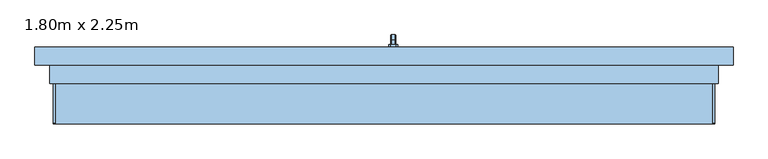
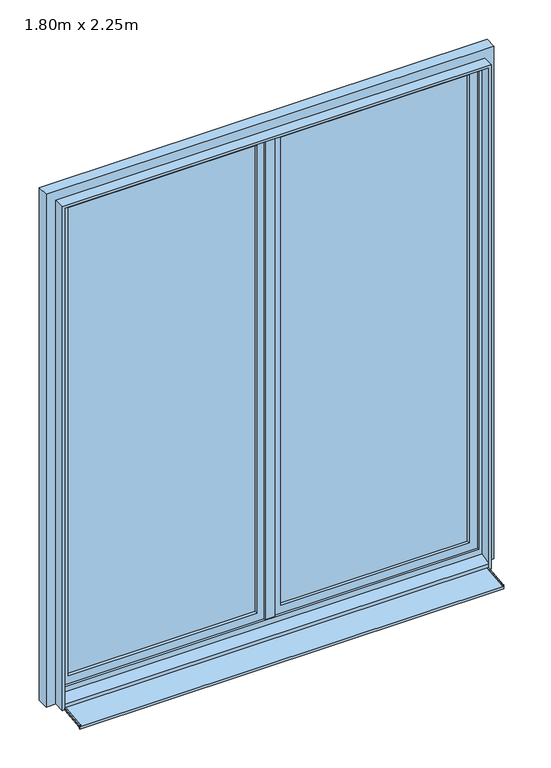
"""IFC4 building model written with IfcOpenShell, lengths in millimetres: window geometry, PF 2 Vantaux - Droits : 1.80m x 2.25m."""

from ifc_helpers import new_model, si_unit, point, frame, frame_2d, origin, place, context, project, spatial, polyline, circle_curve, trimmed, segment, composite_curve, outline, extrude, faceted_brep, source, transform, mapped, element, save


def window_1_80m_x_2_25m_6a560d0c(model_context):
    return source(origin(), model_context, "Body", "SolidModel", [
        faceted_brep([(30.6460097, 106.0, 1122.0339292), (19.3539903, 106.0, 1122.0339292), (17.9660708, 106.0, 1120.6460097), (17.9660708, 106.0, 1109.3323012), (19.3323012, 106.0, 1107.9660708), (30.6676988, 106.0, 1107.9660708), (32.0339292, 106.0, 1109.3323012), (32.0339292, 106.0, 1120.6460097), (32.0339292, 118.3386538, 1120.6460097), (30.6460097, 118.9135489, 1122.0339292), (32.0339292, 113.6523623, 1109.3323012), (32.0339292, 120.3323012, 1102.6523623), (32.0339292, 120.3323012, 1020.0), (32.0339292, 131.6460097, 1020.0), (32.0339292, 131.6460097, 1107.3386538), (30.6676988, 113.0864511, 1107.9660708), (19.3323012, 113.0864511, 1107.9660708), (17.9660708, 113.6523623, 1109.3323012), (17.9660708, 118.3386538, 1120.6460097), (17.9660708, 131.6460097, 1107.3386538), (17.9660708, 131.6460097, 1020.0), (17.9660708, 120.3323012, 1020.0), (17.9660708, 120.3323012, 1102.6523623), (19.3539903, 118.9135489, 1122.0339292), (30.6460097, 133.0339292, 1107.9135489), (30.6676988, 118.9660708, 1102.0864511), (19.3323012, 118.9660708, 1102.0864511), (19.3539903, 133.0339292, 1107.9135489), (30.6460097, 133.0339292, 1020.0), (30.6676988, 118.9660708, 1020.0), (19.3323012, 118.9660708, 1020.0), (19.3539903, 133.0339292, 1020.0)], [[[0, 1, 2, 3, 4, 5, 6, 7]], [[7, 8, 9, 0]], [[6, 10, 11, 12, 13, 14, 8, 7]], [[5, 15, 10, 6]], [[4, 16, 15, 5]], [[3, 17, 16, 4]], [[2, 18, 19, 20, 21, 22, 17, 3]], [[1, 23, 18, 2]], [[0, 9, 23, 1]], [[8, 14, 24, 9]], [[15, 25, 11, 10]], [[16, 26, 25, 15]], [[17, 22, 26, 16]], [[23, 27, 19, 18]], [[9, 24, 27, 23]], [[28, 13, 12, 29, 30, 21, 20, 31]], [[14, 13, 28, 24]], [[25, 29, 12, 11]], [[26, 30, 29, 25]], [[22, 21, 30, 26]], [[27, 31, 20, 19]], [[24, 28, 31, 27]]]),
        extrude(outline(polyline([(1140.0, 32.0), (1140.0, 18.0), (1135.0, 13.0), (1065.0, 13.0), (1060.0, 18.0), (1060.0, 32.0), (1065.0, 37.0), (1135.0, 37.0), (1140.0, 32.0)])), frame((0.0, 100.0, 0.0), z_axis=(0.0, 1.0, 0.0), x_axis=(0.0, 0.0, 1.0)), (0.0, 0.0, 1.0), 6.0),
        extrude(outline(polyline([(-110.0288776, 26.588626), (15.0, 39.7296906), (15.0, 50.0), (20.0, 50.0), (20.0, 35.0), (-105.0288776, 21.8589354), (-105.0288776, 16.0359447), (-110.0288776, 15.5104235), (-110.0288776, 26.588626)])), frame((-900.0, 0.0, 0.0), z_axis=(1.0, 0.0, 0.0), x_axis=(0.0, 1.0, 0.0)), (0.0, 0.0, 1.0), 1800.0),
        extrude(outline(composite_curve([segment(polyline([(-110.0288776, 26.588626), (-110.0288776, 28.0145512)]), True, "CONTINUOUS"), segment(trimmed(circle_curve(frame_2d((-106.0288776, 28.0145512)), 4.0), [point((-110.0288776, 28.0145512))], [point((-106.4469915, 31.9926388))], False, "CARTESIAN"), True, "CONTINUOUS"), segment(polyline([(-106.4469915, 31.9926388), (15.0, 44.757232), (15.0, 39.7296906), (-110.0288776, 26.588626)]), True, "CONTINUOUS")], self_intersect=False)), frame((-900.0, 0.0, 0.0), z_axis=(1.0, 0.0, 0.0), x_axis=(0.0, 1.0, 0.0)), (0.0, 0.0, 1.0), 5.0),
        extrude(outline(composite_curve([segment(polyline([(-110.0288776, 26.588626), (-110.0288776, 28.0145512)]), True, "CONTINUOUS"), segment(trimmed(circle_curve(frame_2d((-106.0288776, 28.0145512)), 4.0), [point((-110.0288776, 28.0145512))], [point((-106.4469915, 31.9926388))], False, "CARTESIAN"), True, "CONTINUOUS"), segment(polyline([(-106.4469915, 31.9926388), (15.0, 44.757232), (15.0, 39.7296906), (-110.0288776, 26.588626)]), True, "CONTINUOUS")], self_intersect=False)), frame((895.0, 0.0, 0.0), z_axis=(1.0, 0.0, 0.0), x_axis=(0.0, 1.0, 0.0)), (0.0, 0.0, 1.0), 5.0),
        extrude(outline(polyline([(85.0, -900.0), (85.0, 0.0), (2285.0, 0.0), (2285.0, -900.0), (85.0, -900.0)]), holes=[polyline([(135.0, -50.0), (135.0, -850.0), (2235.0, -850.0), (2235.0, -50.0), (135.0, -50.0)])]), frame((0.0, 60.0, 0.0), z_axis=(0.0, 1.0, 0.0), x_axis=(0.0, 0.0, 1.0)), (0.0, 0.0, 1.0), 40.0),
        extrude(outline(polyline([(50.0, 74.0), (50.0, 86.0), (850.0, 86.0), (850.0, 74.0), (50.0, 74.0)])), frame((0.0, 0.0, 135.0), z_axis=(0.0, 0.0, 1.0), x_axis=(1.0, 0.0, 0.0)), (0.0, 0.0, 1.0), 2100.0),
        extrude(outline(polyline([(-850.0, 74.0), (-850.0, 86.0), (-50.0, 86.0), (-50.0, 74.0), (-850.0, 74.0)])), frame((0.0, 0.0, 135.0), z_axis=(0.0, 0.0, 1.0), x_axis=(1.0, 0.0, 0.0)), (0.0, 0.0, 1.0), 2100.0),
        extrude(outline(polyline([(85.0, 0.0), (85.0, 900.0), (2285.0, 900.0), (2285.0, 0.0), (85.0, 0.0)]), holes=[polyline([(135.0, 850.0), (135.0, 50.0), (2235.0, 50.0), (2235.0, 850.0), (135.0, 850.0)])]), frame((0.0, 60.0, 0.0), z_axis=(0.0, 1.0, 0.0), x_axis=(0.0, 0.0, 1.0)), (0.0, 0.0, 1.0), 40.0),
        extrude(outline(polyline([(35.0, -900.0), (2285.0, -900.0), (2285.0, 900.0), (35.0, 900.0), (35.0, 910.0), (2295.0, 910.0), (2295.0, -910.0), (35.0, -910.0), (35.0, -900.0)])), frame((0.0, 0.0, 0.0), z_axis=(0.0, 1.0, 0.0), x_axis=(0.0, 0.0, 1.0)), (0.0, 0.0, 1.0), 50.0),
        faceted_brep([(-950.0, 100.0, 35.0), (950.0, 100.0, 35.0), (950.0, 50.0, 35.0), (900.0, 50.0, 35.0), (900.0, 20.0, 35.0), (-900.0, 20.0, 35.0), (-900.0, 50.0, 35.0), (-950.0, 50.0, 35.0), (-950.0, 50.0, 2335.0), (-950.0, 100.0, 2335.0), (-900.0, 50.0, 74.3761425), (900.0, 50.0, 74.3761425), (950.0, 50.0, 2335.0), (-885.0, 50.0, 2270.0), (885.0, 50.0, 2270.0), (885.0, 50.0, 100.0), (-885.0, 50.0, 100.0), (-900.0, 20.0, 50.0), (-900.0, 10.0, 50.0), (-900.0, 10.0, 45.0), (-900.0, 0.0, 45.0), (-900.0, 0.0, 60.9786829), (900.0, 20.0, 50.0), (900.0, 0.0, 60.9786829), (900.0, 0.0, 45.0), (900.0, 10.0, 45.0), (900.0, 10.0, 50.0), (950.0, 100.0, 2335.0), (900.0, 100.0, 2285.0), (-900.0, 100.0, 2285.0), (-900.0, 100.0, 85.0), (900.0, 100.0, 85.0), (-885.0, 60.0, 100.0), (-885.0, 60.0, 2270.0), (885.0, 60.0, 100.0), (885.0, 60.0, 2270.0), (900.0, 60.0, 2285.0), (900.0, 60.0, 85.0), (-900.0, 60.0, 85.0), (-900.0, 60.0, 2285.0)], [[[0, 1, 2, 3, 4, 5, 6, 7]], [[7, 8, 9, 0]], [[7, 6, 10, 11, 3, 2, 12, 8], [13, 14, 15, 16]], [[10, 6, 5, 17, 18, 19, 20, 21]], [[5, 4, 22, 17]], [[4, 3, 11, 23, 24, 25, 26, 22]], [[2, 1, 27, 12]], [[0, 9, 27, 1], [28, 29, 30, 31]], [[13, 16, 32, 33]], [[32, 16, 15, 34]], [[35, 34, 15, 14]], [[21, 23, 11, 10]], [[36, 37, 38, 39], [33, 32, 34, 35]], [[38, 30, 29, 39]], [[30, 38, 37, 31]], [[28, 31, 37, 36]], [[20, 24, 23, 21]], [[19, 25, 24, 20]], [[18, 26, 25, 19]], [[17, 22, 26, 18]], [[13, 33, 35, 14]], [[39, 29, 28, 36]], [[12, 27, 9, 8]]]),
        extrude(outline(polyline([(20.0, 52.0), (-20.0, 52.0), (-20.0, 60.0), (20.0, 60.0), (20.0, 52.0)])), frame((0.0, 0.0, 100.0), z_axis=(0.0, 0.0, 1.0), x_axis=(1.0, 0.0, 0.0)), (0.0, 0.0, 1.0), 2170.0),
    ])


if __name__ == "__main__":
    model = new_model("IFC4")
    model_context = context("Model", 3, world=origin())
    ifc_project = project(units=[si_unit("LENGTHUNIT", "METRE", prefix="MILLI")], contexts=[model_context])
    site = spatial("IfcSite", under=ifc_project)
    building = spatial("IfcBuilding", under=site)
    placement = place(None, origin())
    window_1_80m_x_2_25m_shape = window_1_80m_x_2_25m_6a560d0c(model_context)
    element("IfcWindow", 1, ObjectType="PF 2 Vantaux - Droits : 1.80m x 2.25m", at=placement, inside=building, context=model_context, shape_type="MappedRepresentation", body=[
        mapped(window_1_80m_x_2_25m_shape, transform((0.0, 0.0, 0.0), x_axis=(1.0, 0.0, 0.0), y_axis=(0.0, 1.0, 0.0), z_axis=(0.0, 0.0, 1.0))),
    ])
    save(model, "model.ifc")
